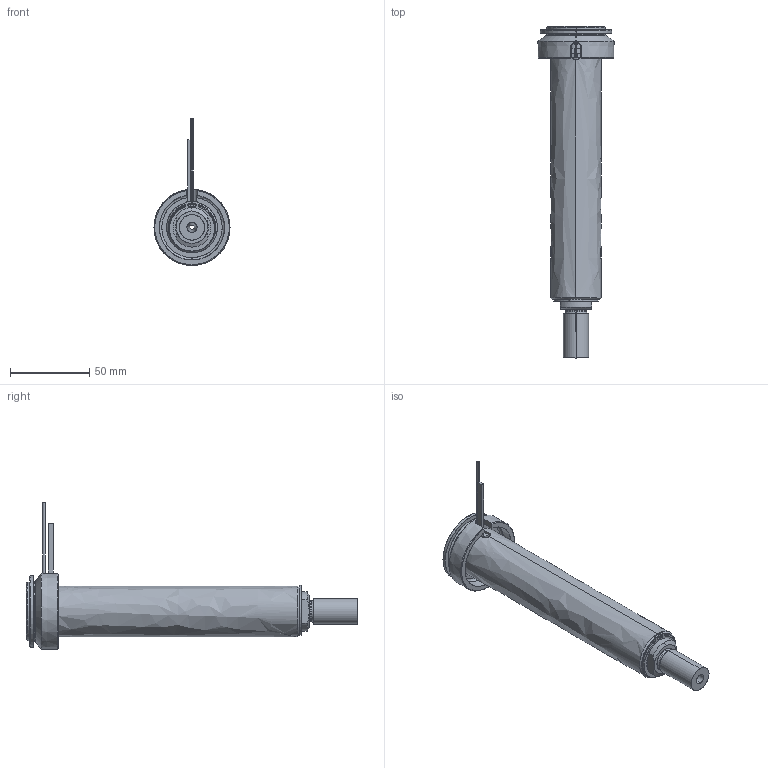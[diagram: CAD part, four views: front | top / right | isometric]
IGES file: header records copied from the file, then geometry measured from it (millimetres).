
Start section: SolidWorks IGES file using analytic representation for surfaces
Global section: file name: C:\Documents and Settings\ws-20\Desktop\TEMPORANEA\UGBE5004-M-A-P-3 [Ød-3.0 P-25 ØC-12].IGS; native system: SolidWorks 2012; preprocessor: SolidWorks 2012; author: ws-20; date: 120306.145848; units: millimetre
Bounding box: 48 x 209.25 x 92.62 mm (x, y, z)
Surface area: 66790.7 mm2 (no closed solid volume)
Topology: 0 solids, 0 shells, 109 faces, 2030 edges, 2030 vertices
Faces by surface type: revolution 64, bspline 45
